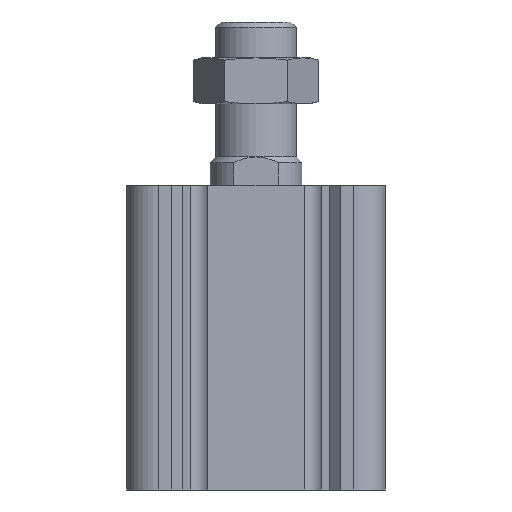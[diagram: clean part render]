
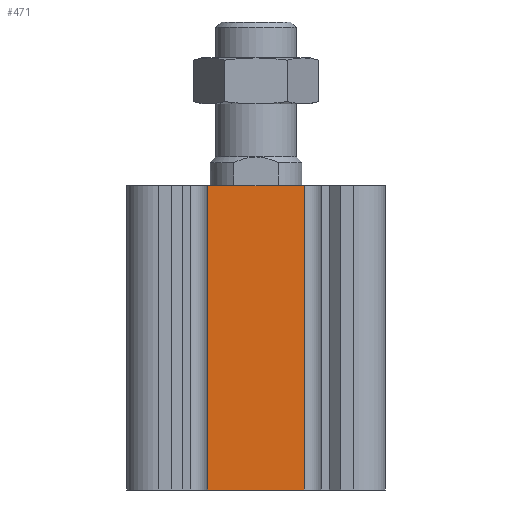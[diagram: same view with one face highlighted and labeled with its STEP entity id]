
A CAD part, left-side view. The second image highlights one B-rep face of the part: STEP entity #471.
In plain terms, the highlighted planar face has unit normal (-1, 0, 0).
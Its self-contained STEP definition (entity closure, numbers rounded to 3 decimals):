
#471 = ADVANCED_FACE( '', ( #1000 ), #1001, .T. );
#1000 = FACE_OUTER_BOUND( '', #1562, .T. );
#1001 = PLANE( '', #1563 );
#1562 = EDGE_LOOP( '', ( #2644, #2645, #2646, #2647 ) );
#1563 = AXIS2_PLACEMENT_3D( '', #2648, #2649, #2650 );
#2644 = ORIENTED_EDGE( '', *, *, #3351, .F. );
#2645 = ORIENTED_EDGE( '', *, *, #3152, .F. );
#2646 = ORIENTED_EDGE( '', *, *, #3265, .T. );
#2647 = ORIENTED_EDGE( '', *, *, #3329, .T. );
#2648 = CARTESIAN_POINT( '', ( -20.5, 8.4, -53. ) );
#2649 = DIRECTION( '', ( -1., 0., 0. ) );
#2650 = DIRECTION( '', ( 0., 0., 1. ) );
#3152 = EDGE_CURVE( '', #3766, #3764, #3768, .T. );
#3265 = EDGE_CURVE( '', #3766, #3927, #3929, .T. );
#3329 = EDGE_CURVE( '', #3927, #4011, #4013, .T. );
#3351 = EDGE_CURVE( '', #3764, #4011, #4038, .T. );
#3764 = VERTEX_POINT( '', #4626 );
#3766 = VERTEX_POINT( '', #4629 );
#3768 = LINE( '', #4632, #4633 );
#3927 = VERTEX_POINT( '', #4878 );
#3929 = LINE( '', #4881, #4882 );
#4011 = VERTEX_POINT( '', #4996 );
#4013 = LINE( '', #4999, #5000 );
#4038 = LINE( '', #5034, #5035 );
#4626 = CARTESIAN_POINT( '', ( -20.5, 8.4, 0. ) );
#4629 = CARTESIAN_POINT( '', ( -20.5, 8.4, -53. ) );
#4632 = CARTESIAN_POINT( '', ( -20.5, 8.4, -53. ) );
#4633 = VECTOR( '', #5384, 1000. );
#4878 = CARTESIAN_POINT( '', ( -20.5, -8.4, -53. ) );
#4881 = CARTESIAN_POINT( '', ( -20.5, 8.4, -53. ) );
#4882 = VECTOR( '', #5513, 1000. );
#4996 = CARTESIAN_POINT( '', ( -20.5, -8.4, 0. ) );
#4999 = CARTESIAN_POINT( '', ( -20.5, -8.4, -53. ) );
#5000 = VECTOR( '', #5571, 1000. );
#5034 = CARTESIAN_POINT( '', ( -20.5, 8.4, 0. ) );
#5035 = VECTOR( '', #5587, 1000. );
#5384 = DIRECTION( '', ( 0., 0., 1. ) );
#5513 = DIRECTION( '', ( 0., -1., 0. ) );
#5571 = DIRECTION( '', ( 0., 0., 1. ) );
#5587 = DIRECTION( '', ( 0., -1., 0. ) );
